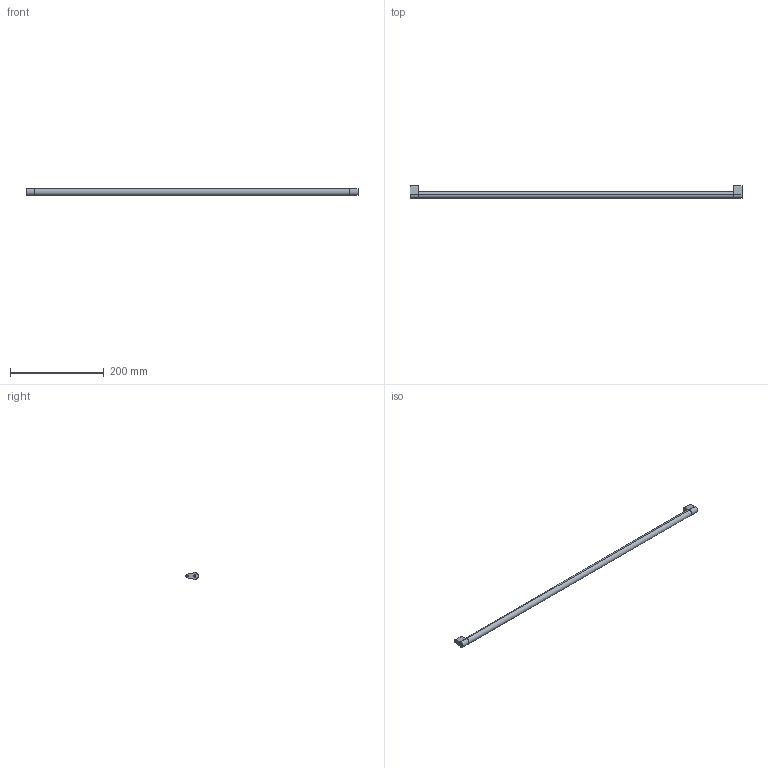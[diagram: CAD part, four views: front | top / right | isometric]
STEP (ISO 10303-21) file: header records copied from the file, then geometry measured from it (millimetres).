
FILE_DESCRIPTION (( 'STEP AP214' ), '1' );
FILE_NAME ('_Synchronisationseinheit DWD XP KAB800_S16.step', '2010-07-08T13:58:19', ( 'grass' ), ( '' ), 'SwSTEP 2.0', 'SolidWorks 2010', '' );
FILE_SCHEMA (( 'AUTOMOTIVE_DESIGN' ));
Length unit declared in the file: millimetre
Products named in the file (1): _Synchronisationseinheit DWD XP KAB800_S16
Bounding box: 707 x 26.5 x 14 mm (x, y, z)
Volume: 112521 mm3; surface area: 33942.5 mm2
Topology: 3 solids, 3 shells, 36 faces, 78 edges, 52 vertices
Faces by surface type: cylinder 18, plane 18
Entity records: 1050 total; most frequent: DIRECTION 188, CARTESIAN_POINT 167, ORIENTED_EDGE 156, EDGE_CURVE 78, AXIS2_PLACEMENT_3D 73, VERTEX_POINT 52, LINE 42, VECTOR 42
